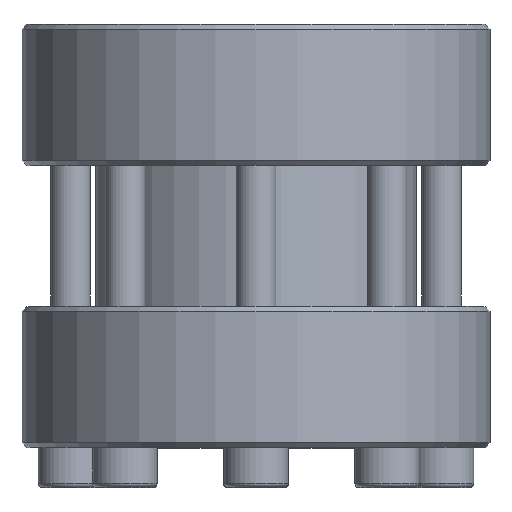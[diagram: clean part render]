
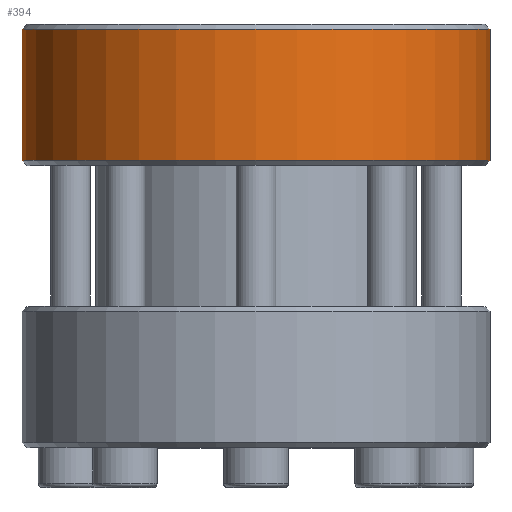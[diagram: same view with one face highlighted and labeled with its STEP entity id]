
A CAD part, top view. The second image highlights one B-rep face of the part: STEP entity #394.
In plain terms, the highlighted cylindrical face has radius 47 mm (diameter 94 mm), a full revolution.
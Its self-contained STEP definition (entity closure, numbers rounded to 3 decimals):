
#394 = ADVANCED_FACE( '', ( #654, #655 ), #656, .T. );
#654 = FACE_OUTER_BOUND( '', #844, .T. );
#655 = FACE_OUTER_BOUND( '', #845, .T. );
#656 = CYLINDRICAL_SURFACE( '', #846, 47. );
#844 = EDGE_LOOP( '', ( #1139 ) );
#845 = EDGE_LOOP( '', ( #1140 ) );
#846 = AXIS2_PLACEMENT_3D( '', #1141, #1142, #1143 );
#1139 = ORIENTED_EDGE( '', *, *, #1436, .T. );
#1140 = ORIENTED_EDGE( '', *, *, #1452, .T. );
#1141 = CARTESIAN_POINT( '', ( 0., -60., 0. ) );
#1142 = DIRECTION( '', ( 0., 1., 0. ) );
#1143 = DIRECTION( '', ( 0., 0., -1. ) );
#1436 = EDGE_CURVE( '', #1618, #1618, #1619, .T. );
#1452 = EDGE_CURVE( '', #1645, #1645, #1646, .T. );
#1618 = VERTEX_POINT( '', #1805 );
#1619 = CIRCLE( '', #1806, 47. );
#1645 = VERTEX_POINT( '', #1833 );
#1646 = CIRCLE( '', #1834, 47. );
#1805 = CARTESIAN_POINT( '', ( 0., 84., -47. ) );
#1806 = AXIS2_PLACEMENT_3D( '', #1943, #1944, #1945 );
#1833 = CARTESIAN_POINT( '', ( 0., 57.667, 47. ) );
#1834 = AXIS2_PLACEMENT_3D( '', #1989, #1990, #1991 );
#1943 = CARTESIAN_POINT( '', ( 0., 84., 0. ) );
#1944 = DIRECTION( '', ( 0., -1., 0. ) );
#1945 = DIRECTION( '', ( 0., 0., -1. ) );
#1989 = CARTESIAN_POINT( '', ( 0., 57.667, 0. ) );
#1990 = DIRECTION( '', ( 0., 1., 0. ) );
#1991 = DIRECTION( '', ( 0., 0., 1. ) );
